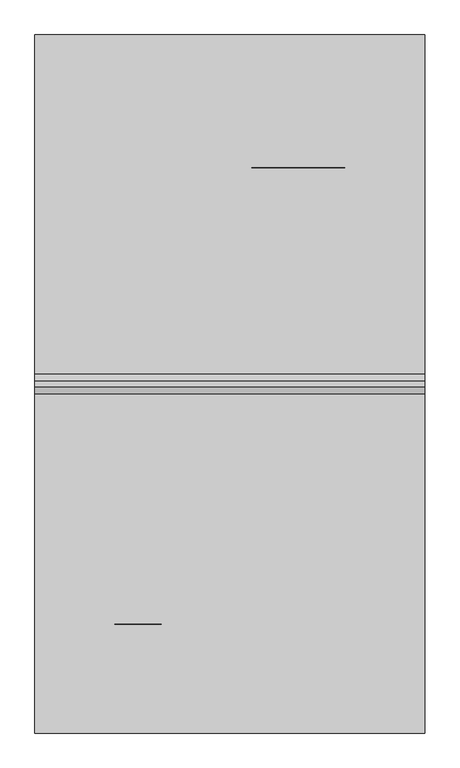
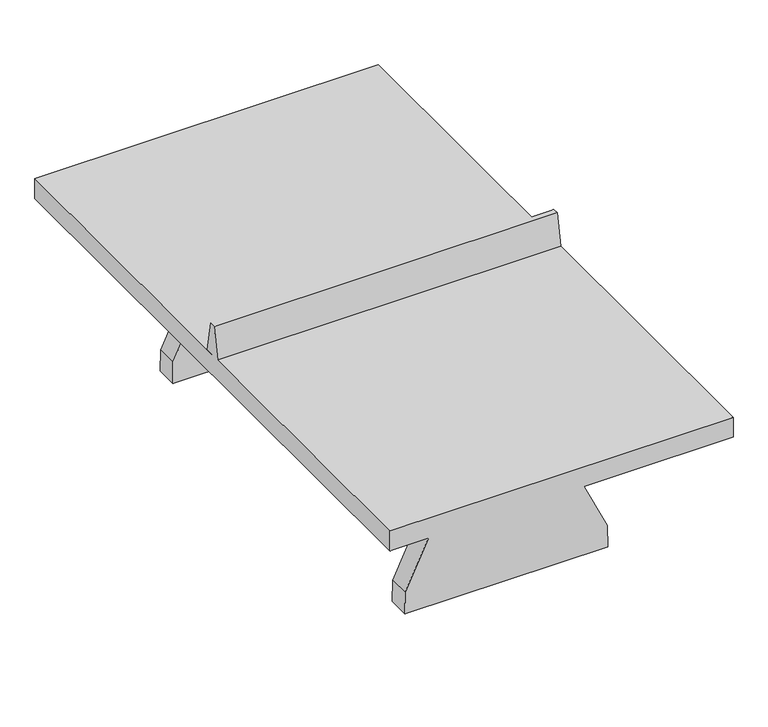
"""IFC4 building model written with IfcOpenShell, lengths in millimetres: geographic element geometry, Enscape AssetDefinition - Ping-Pong Table 001 : Enscape AssetDefinition - Ping-Pong Table 001."""

from ifc_helpers import new_model, si_unit, origin, place, context, project, spatial, triangles, source, transform, mapped, element, save


def geographic_element_6473c860(model_context):
    return source(origin(), model_context, "Body", "Tessellation", [
        triangles([(640.4104013, 1148.822101, 558.6320718), (-642.0919847, -1147.9469364, 558.6320718), (-642.0919847, 1148.822101, 637.0600245), (640.4104013, 1148.822101, 637.0600245), (-642.0919847, 1148.822101, 558.6320718), (640.4104013, -1147.9469364, 558.6320718), (640.4104013, -1147.9469364, 637.0600245), (-642.0919847, -1147.9469364, 637.0600245), (-378.4270466, 711.9523281, 486.3475668), (-378.4270466, 791.6442661, 486.3475668), (-281.2485669, 711.2539696, 290.4012786), (377.742241, 711.2539696, 577.8964846), (-281.2485669, 792.3426247, 290.4012786), (-378.4731557, 791.6442661, 84.3207707), (-379.166391, 711.2539696, 577.8964846), (377.742241, 792.3426247, 0.0), (-379.166391, 792.3426247, 577.8964846), (377.041448, 711.9523281, 84.3568059), (377.041448, 791.6442661, 84.3568059), (279.7020407, 711.2539696, 290.4012786), (279.7020407, 792.3426247, 290.4012786), (376.9945032, 791.6442661, 486.3098147), (377.742241, 792.3426247, 577.8964846), (377.742241, 711.2539696, 0.0), (-379.166391, 792.3426247, 0.0), (-379.166391, 711.2539696, 0.0), (-378.4731557, 711.9523281, 84.3207707), (376.9945032, 711.9523281, 486.3098147), (640.4104013, 11.5006096, 755.8909979), (-642.0919847, 11.5006096, 755.8909979), (-642.0919847, -32.8764884, 637.0600245), (-642.0919847, -10.6246524, 755.8909979), (-642.0919847, 33.7524456, 637.0600245), (640.4104013, -10.6246524, 755.8909979), (640.4104013, 33.7524456, 637.0600245), (640.4104013, -32.8764884, 637.0600245), (52.6245086, -731.3742531, 235.2713043), (-54.0486768, -731.3742531, 143.4399364), (52.6245086, 732.2812471, 143.4399364), (-54.0486768, 732.2812471, 143.4399364), (-54.0486768, 732.2812471, 235.2713043), (52.6245086, -731.3742531, 143.4399364), (52.6245086, 732.2812471, 235.2713043), (-54.0486768, -731.3742531, 235.2713043), (-281.2485669, -790.3568447, 290.4012786), (-378.4270466, -789.6584862, 486.3475668), (-378.4731557, -789.6584862, 84.3207707), (-378.4731557, -709.9665482, 84.3207707), (377.742241, -709.2673903, 0.0), (-379.166391, -709.2673903, 0.0), (377.041448, -709.9665482, 84.3568059), (377.742241, -790.3568447, 0.0), (-379.166391, -790.3568447, 0.0), (377.041448, -789.6584862, 84.3568059), (-281.2485669, -709.2682623, 290.4012786), (279.7020407, -790.3568447, 290.4012786), (279.7020407, -709.2682623, 290.4012786), (376.9945032, -709.9665482, 486.3098147), (377.742241, -790.3568447, 577.8964846), (-379.166391, -790.3568447, 577.8964846), (376.9945032, -789.6584862, 486.3098147), (-378.4270466, -709.9665482, 486.3475668), (377.742241, -709.2682623, 577.8964846), (-379.166391, -709.2682623, 577.8964846)], [[63, 62, 64], [62, 63, 55], [60, 59, 63], [60, 63, 64], [62, 60, 64], [60, 61, 59], [58, 63, 59], [55, 63, 58], [61, 58, 59], [55, 58, 57], [56, 57, 58], [56, 58, 61], [56, 61, 60], [54, 57, 56], [54, 51, 57], [51, 55, 57], [51, 54, 52], [53, 52, 54], [54, 56, 53], [51, 49, 55], [52, 53, 49], [51, 52, 49], [53, 50, 49], [47, 53, 56], [47, 50, 53], [47, 48, 50], [49, 50, 48], [55, 49, 48], [45, 55, 48], [45, 47, 56], [45, 48, 47], [62, 46, 60], [46, 62, 55], [46, 45, 56], [46, 55, 45], [46, 56, 60], [40, 44, 41], [44, 43, 41], [44, 37, 43], [42, 43, 37], [41, 43, 39], [42, 39, 43], [40, 41, 39], [37, 44, 38], [40, 38, 44], [38, 40, 39], [42, 37, 38], [38, 39, 42], [35, 36, 31], [31, 36, 34], [33, 35, 31], [35, 33, 30], [36, 35, 29], [35, 30, 29], [36, 29, 34], [33, 31, 32], [32, 34, 29], [33, 32, 30], [31, 34, 32], [32, 29, 30], [16, 25, 14], [27, 14, 25], [28, 12, 26], [12, 27, 26], [26, 25, 16], [27, 25, 26], [24, 26, 16], [26, 24, 18], [20, 28, 26], [18, 20, 26], [22, 23, 12], [28, 22, 12], [20, 22, 28], [20, 21, 22], [18, 21, 20], [19, 18, 24], [18, 19, 21], [19, 24, 16], [19, 16, 17], [12, 23, 17], [21, 17, 22], [17, 23, 22], [19, 17, 21], [12, 17, 15], [10, 17, 16], [10, 15, 17], [13, 16, 14], [10, 16, 13], [11, 13, 14], [12, 11, 27], [11, 14, 27], [10, 9, 15], [9, 10, 13], [12, 15, 9], [9, 13, 11], [9, 11, 12], [5, 8, 3], [8, 4, 3], [8, 7, 4], [6, 4, 7], [1, 5, 3], [6, 1, 4], [1, 3, 4], [5, 2, 8], [2, 6, 7], [2, 5, 1], [2, 7, 8], [2, 1, 6]]),
    ])


if __name__ == "__main__":
    model = new_model("IFC4")
    model_context = context("Model", 3, world=origin())
    ifc_project = project(units=[si_unit("LENGTHUNIT", "METRE", prefix="MILLI")], contexts=[model_context])
    site = spatial("IfcSite", under=ifc_project)
    building = spatial("IfcBuilding", under=site)
    placement = place(None, origin())
    geographic_element_shape = geographic_element_6473c860(model_context)
    element("IfcGeographicElement", 1, ObjectType="Enscape AssetDefinition - Ping-Pong Table 001 : Enscape AssetDefinition - Ping-Pong Table 001", at=placement, inside=building, context=model_context, shape_type="MappedRepresentation", body=[
        mapped(geographic_element_shape, transform((0.0, 0.0, 0.0), x_axis=(1.0, 0.0, 0.0), y_axis=(0.0, 1.0, 0.0), z_axis=(0.0, 0.0, 1.0))),
    ])
    save(model, "model.ifc")
